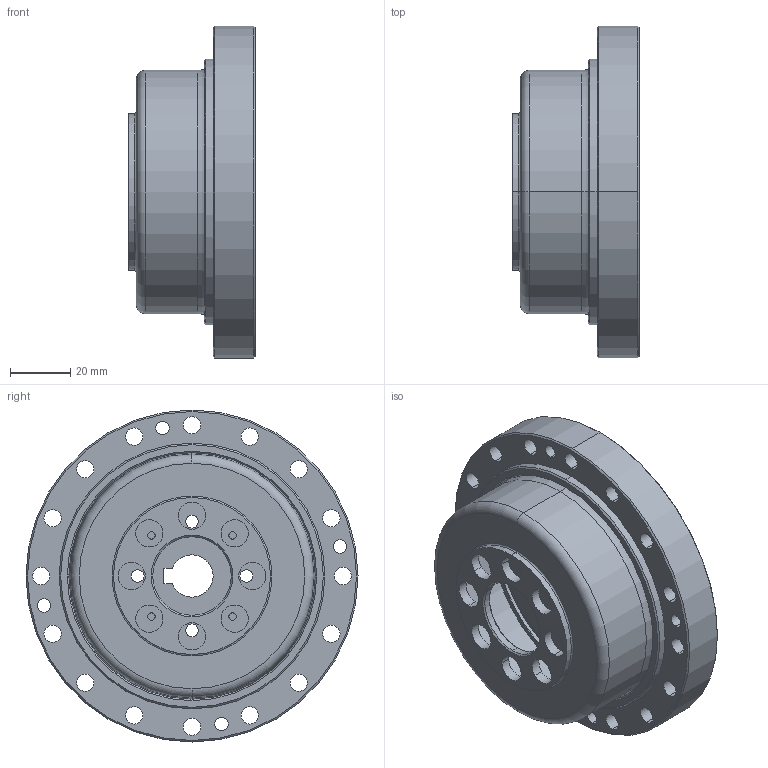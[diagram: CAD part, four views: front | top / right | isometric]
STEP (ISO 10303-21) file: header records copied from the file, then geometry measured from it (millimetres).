
FILE_DESCRIPTION (( 'STEP AP203' ), '1' );
FILE_NAME ('LCS-32-XXX-P-I.STEP', '2017-06-22T02:56:53', ( 'Windows 蚚誧' ), ( 'Users' ), 'SwSTEP 2.0', 'SolidWorks 2013', '' );
FILE_SCHEMA (( 'CONFIG_CONTROL_DESIGN' ));
Length unit declared in the file: millimetre
Products named in the file (9): LCS-32-XXX-P-I; LCS-32-XXX-P03-I; DB-32-I; ﾊｮﾗﾖﾇﾐｲﾛｳﾁﾍｷﾂﾝｶ､M3 x 8_ISO 7046-1 - M3 x 8 - Z --- 8C; RZC-32内外圈+钢球; RZC-32悵厥殤; 柔性轴承RZC-32; LHS-32-XXX-P02; LCS-32-XXX-P01
Assembly tree (11 placements, depth 3):
  LCS-32-XXX-P-I
    LCS-32-XXX-P03-I
    DB-32-I
    ﾊｮﾗﾖﾇﾐｲﾛｳﾁﾍｷﾂﾝｶ､M3 x 8_ISO 7046-1 - M3 x 8 - Z --- 8C  x4
    柔性轴承RZC-32
      RZC-32内外圈+钢球
      RZC-32悵厥殤
    LHS-32-XXX-P02
    LCS-32-XXX-P01
Bounding box: 42 x 110 x 110 mm (x, y, z)
Volume: 120838 mm3; surface area: 89978.1 mm2
Topology: 34 solids, 34 shells, 545 faces, 1404 edges, 889 vertices
Faces by surface type: cylinder 222, plane 163, cone 76, sphere 46, torus 38
Entity records: 13766 total; most frequent: DIRECTION 2528, CARTESIAN_POINT 2139, ORIENTED_EDGE 2010, AXIS2_PLACEMENT_3D 1099, EDGE_CURVE 1005, CIRCLE 662, VERTEX_POINT 658, EDGE_LOOP 537
